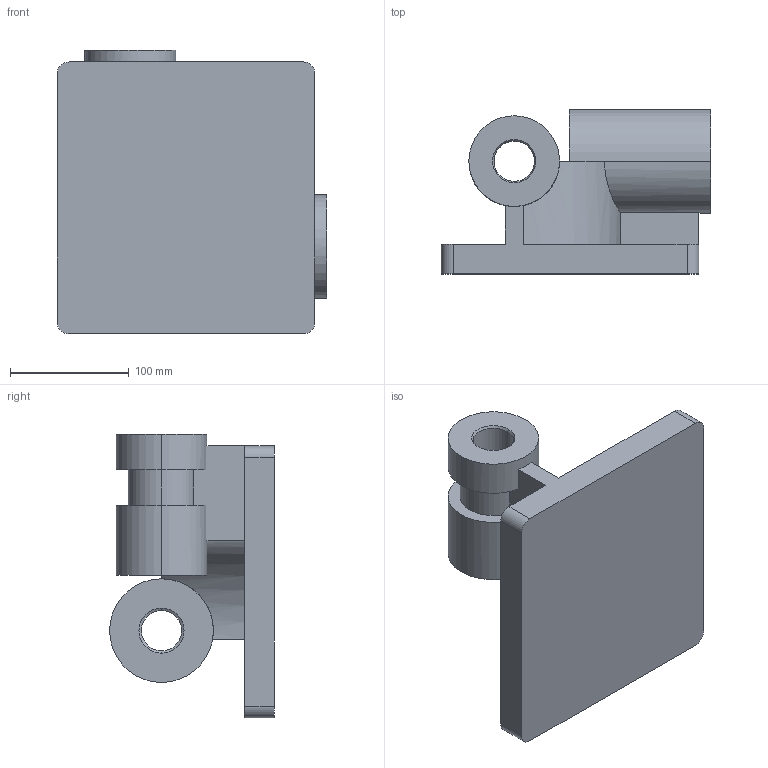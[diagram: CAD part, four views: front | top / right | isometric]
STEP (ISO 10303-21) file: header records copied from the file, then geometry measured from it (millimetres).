
FILE_DESCRIPTION (( 'STEP AP203' ), '1' );
FILE_NAME ('CSWP-Sample - Q5.STEP', '2019-10-03T02:12:29', ( '' ), ( '' ), 'SwSTEP 2.0', 'SolidWorks 2019', '' );
FILE_SCHEMA (( 'CONFIG_CONTROL_DESIGN' ));
Length unit declared in the file: millimetre
Products named in the file (1): CSWP-Sample - Q5
Bounding box: 227 x 138.67 x 239 mm (x, y, z)
Volume: 1845195.4 mm3; surface area: 259789 mm2
Topology: 1 solids, 1 shells, 66 faces, 174 edges, 112 vertices
Faces by surface type: cylinder 30, plane 28, cone 8
Entity records: 2263 total; most frequent: CARTESIAN_POINT 487, DIRECTION 374, ORIENTED_EDGE 348, EDGE_CURVE 174, AXIS2_PLACEMENT_3D 137, VERTEX_POINT 112, VECTOR 100, LINE 100
